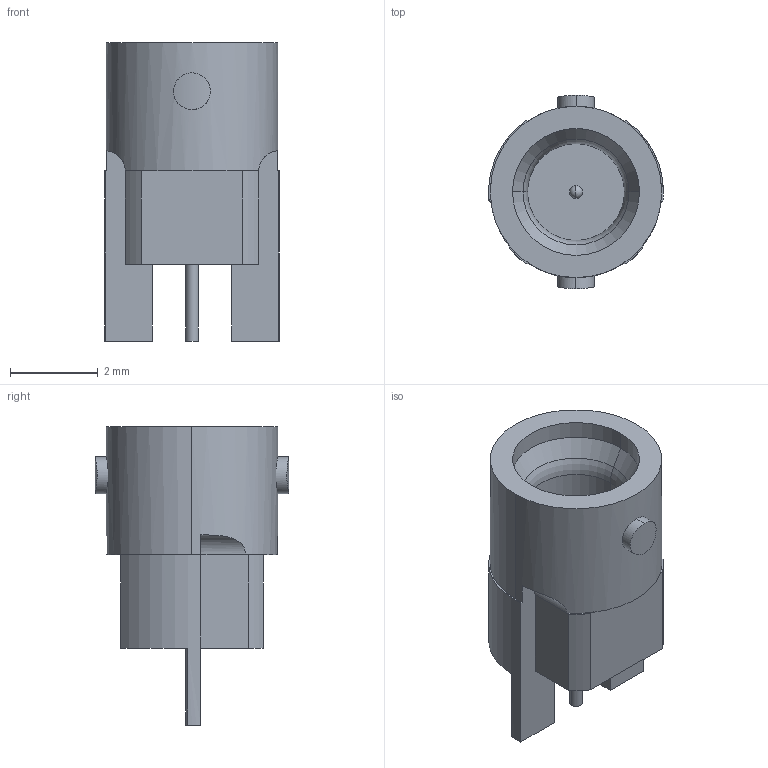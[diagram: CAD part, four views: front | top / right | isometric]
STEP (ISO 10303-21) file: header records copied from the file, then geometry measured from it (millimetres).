
FILE_DESCRIPTION (( 'STEP AP214' ), '1' );
FILE_NAME ('3211-60118.STEP', '2015-07-29T18:02:19', ( 'image' ), ( '' ), 'SwSTEP 2.0', 'SolidWorks 2014', '' );
FILE_SCHEMA (( 'AUTOMOTIVE_DESIGN' ));
Length unit declared in the file: inch
Products named in the file (1): 3211-60118
Bounding box: 3.99 x 4.42 x 6.81 mm (x, y, z)
Volume: 49.3 mm3; surface area: 115.5 mm2
Topology: 1 solids, 1 shells, 54 faces, 129 edges, 81 vertices
Faces by surface type: plane 23, cylinder 21, bspline 4, sphere 2, torus 2, cone 2
Entity records: 2686 total; most frequent: CARTESIAN_POINT 697, DIRECTION 271, ORIENTED_EDGE 254, EDGE_CURVE 127, AXIS2_PLACEMENT_3D 103, VERTEX_POINT 81, VECTOR 65, LINE 65
